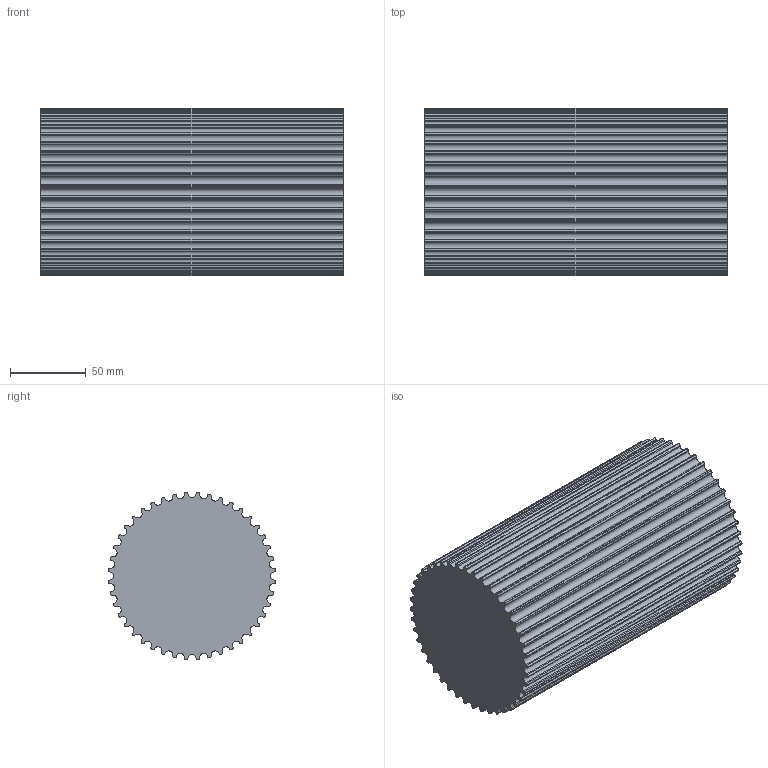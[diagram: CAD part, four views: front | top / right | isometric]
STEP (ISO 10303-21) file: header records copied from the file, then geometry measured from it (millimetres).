
FILE_DESCRIPTION( ( 'STEP AP203' ), '1' );
FILE_NAME( 'C:/Users/Stangenbergd/Desktop/17494401.stp', '2020-08-15T09:48:21', ( 'License CC BY-ND 4.0' ), ( 'CADENAS' ), ' ', 'PARTsolutions', ' ' );
FILE_SCHEMA( ( 'CONFIG_CONTROL_DESIGN' ) );
Length unit declared in the file: millimetre
Products named in the file (1): _17494401
Bounding box: 200 x 110.41 x 110.41 mm (x, y, z)
Volume: 1778330.5 mm3; surface area: 119940.9 mm2
Topology: 1 solids, 1 shells, 266 faces, 792 edges, 528 vertices
Faces by surface type: cylinder 176, plane 90
Entity records: 9132 total; most frequent: DIRECTION 1678, CARTESIAN_POINT 1587, ORIENTED_EDGE 1584, EDGE_CURVE 792, AXIS2_PLACEMENT_3D 619, VERTEX_POINT 528, LINE 440, VECTOR 440
